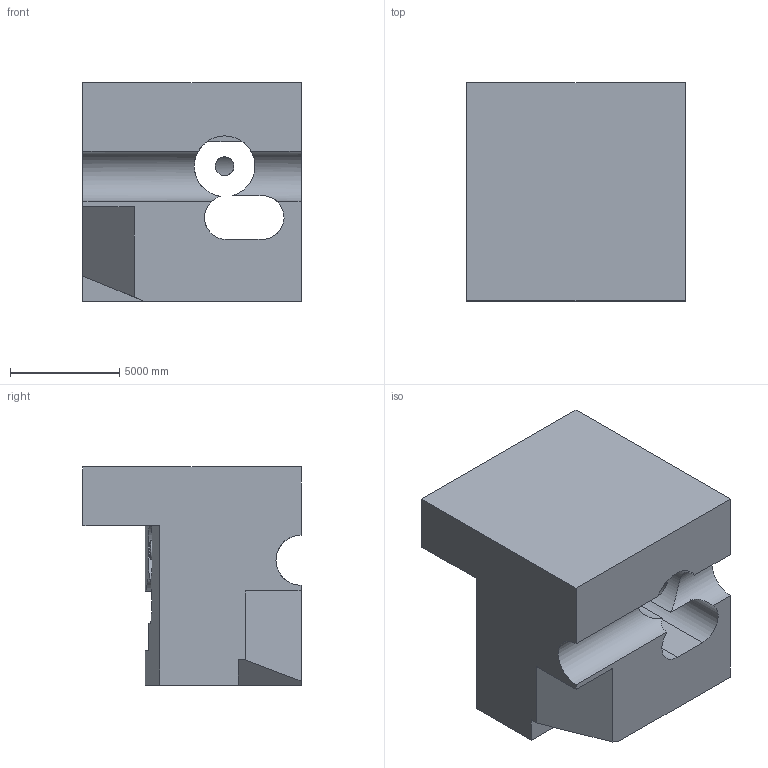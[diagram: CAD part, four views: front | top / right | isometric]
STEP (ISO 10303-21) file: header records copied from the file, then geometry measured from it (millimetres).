
FILE_DESCRIPTION (( 'STEP AP203' ), '1' );
FILE_NAME ('1653.STEP', '2022-08-19T11:23:36', ( 'user' ), ( '' ), 'SwSTEP 2.0', 'SolidWorks 2021', '' );
FILE_SCHEMA (( 'CONFIG_CONTROL_DESIGN' ));
Length unit declared in the file: centimetre
Products named in the file (1): 1653
Bounding box: 10000 x 10000 x 10000 mm (x, y, z)
Volume: 647491303798.8 mm3; surface area: 655918008.9 mm2
Topology: 2 solids, 2 shells, 28 faces, 78 edges, 52 vertices
Faces by surface type: plane 19, cylinder 9
Entity records: 1637 total; most frequent: CARTESIAN_POINT 865, ORIENTED_EDGE 156, DIRECTION 129, EDGE_CURVE 78, LINE 55, VECTOR 55, VERTEX_POINT 52, AXIS2_PLACEMENT_3D 37
